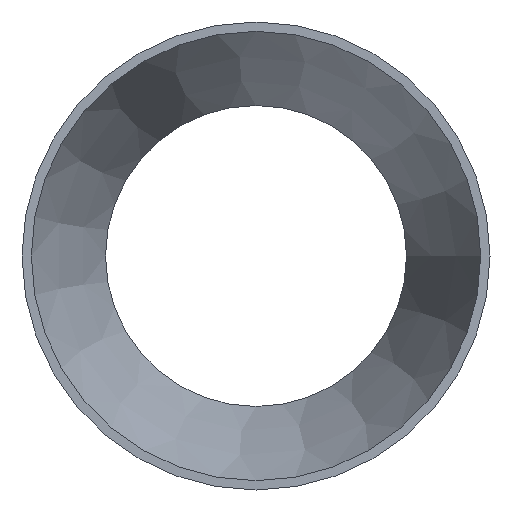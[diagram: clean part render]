
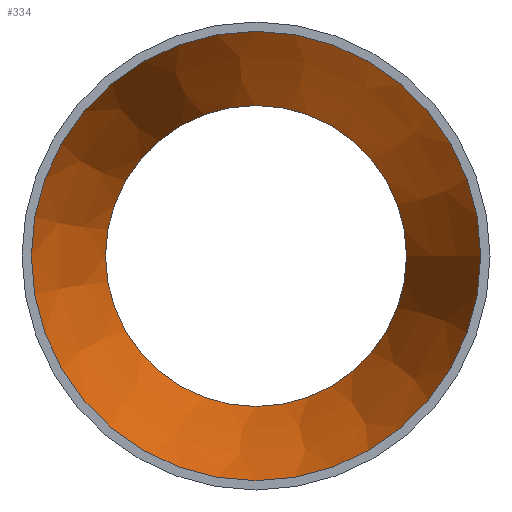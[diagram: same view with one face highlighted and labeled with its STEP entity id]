
A CAD part, left-side view. The second image highlights one B-rep face of the part: STEP entity #334.
In plain terms, the highlighted conical face has half-angle 19.41 degrees and reference radius 67.437 mm.
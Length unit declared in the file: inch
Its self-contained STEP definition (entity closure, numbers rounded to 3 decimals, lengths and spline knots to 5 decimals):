
#66=FACE_OUTER_BOUND('',#82,.T.);
#82=EDGE_LOOP('',(#235,#236,#237,#238,#239,#240));
#104=LINE('',#580,#114);
#114=VECTOR('',#447,2.655);
#127=CIRCLE('',#375,2.13);
#128=CIRCLE('',#376,3.18);
#129=CIRCLE('',#377,3.18);
#130=CIRCLE('',#378,2.13);
#159=VERTEX_POINT('',#576);
#160=VERTEX_POINT('',#577);
#161=VERTEX_POINT('',#579);
#162=VERTEX_POINT('',#581);
#192=EDGE_CURVE('',#159,#160,#127,.T.);
#193=EDGE_CURVE('',#160,#161,#104,.T.);
#194=EDGE_CURVE('',#162,#161,#128,.T.);
#195=EDGE_CURVE('',#161,#162,#129,.T.);
#196=EDGE_CURVE('',#160,#159,#130,.T.);
#235=ORIENTED_EDGE('',*,*,#192,.T.);
#236=ORIENTED_EDGE('',*,*,#193,.T.);
#237=ORIENTED_EDGE('',*,*,#194,.F.);
#238=ORIENTED_EDGE('',*,*,#195,.F.);
#239=ORIENTED_EDGE('',*,*,#193,.F.);
#240=ORIENTED_EDGE('',*,*,#196,.T.);
#314=CONICAL_SURFACE('',#374,2.655,0.339);
#334=ADVANCED_FACE('',(#66),#314,.F.);
#374=AXIS2_PLACEMENT_3D('',#575,#443,#444);
#375=AXIS2_PLACEMENT_3D('',#578,#445,#446);
#376=AXIS2_PLACEMENT_3D('',#582,#448,#449);
#377=AXIS2_PLACEMENT_3D('',#583,#450,#451);
#378=AXIS2_PLACEMENT_3D('',#584,#452,#453);
#443=DIRECTION('center_axis',(-1.,0.,0.));
#444=DIRECTION('ref_axis',(0.,1.,0.));
#445=DIRECTION('center_axis',(1.,0.,0.));
#446=DIRECTION('ref_axis',(0.,1.,0.));
#447=DIRECTION('',(-0.943,-0.332,0.));
#448=DIRECTION('center_axis',(1.,0.,0.));
#449=DIRECTION('ref_axis',(0.,1.,0.));
#450=DIRECTION('center_axis',(1.,0.,0.));
#451=DIRECTION('ref_axis',(0.,1.,0.));
#452=DIRECTION('center_axis',(1.,0.,0.));
#453=DIRECTION('ref_axis',(0.,1.,0.));
#575=CARTESIAN_POINT('Origin',(2.75,0.,0.));
#576=CARTESIAN_POINT('',(4.24,2.13,0.));
#577=CARTESIAN_POINT('',(4.24,-2.13,0.));
#578=CARTESIAN_POINT('Origin',(4.24,0.,0.));
#579=CARTESIAN_POINT('',(1.26,-3.18,0.));
#580=CARTESIAN_POINT('',(2.75,-2.655,0.));
#581=CARTESIAN_POINT('',(1.26,3.18,0.));
#582=CARTESIAN_POINT('Origin',(1.26,0.,0.));
#583=CARTESIAN_POINT('Origin',(1.26,0.,0.));
#584=CARTESIAN_POINT('Origin',(4.24,0.,0.));
